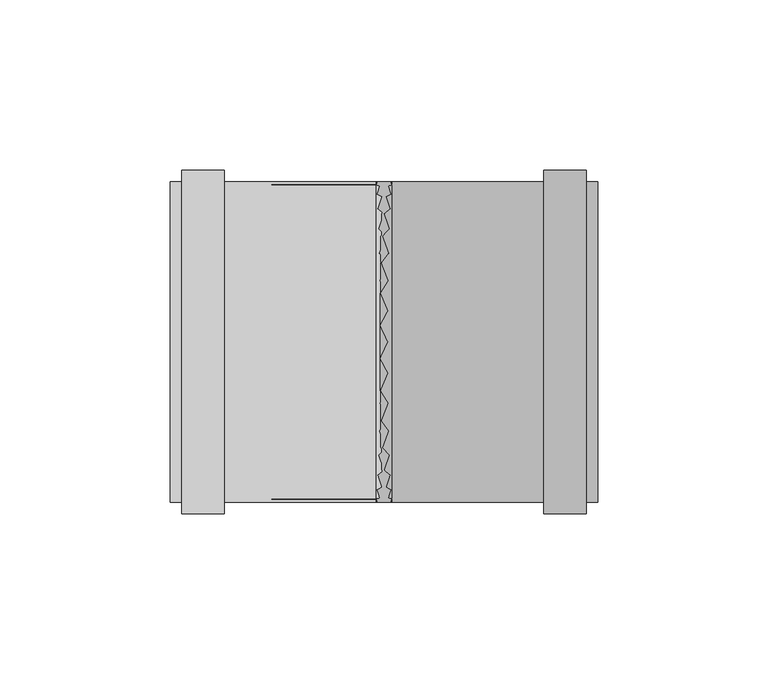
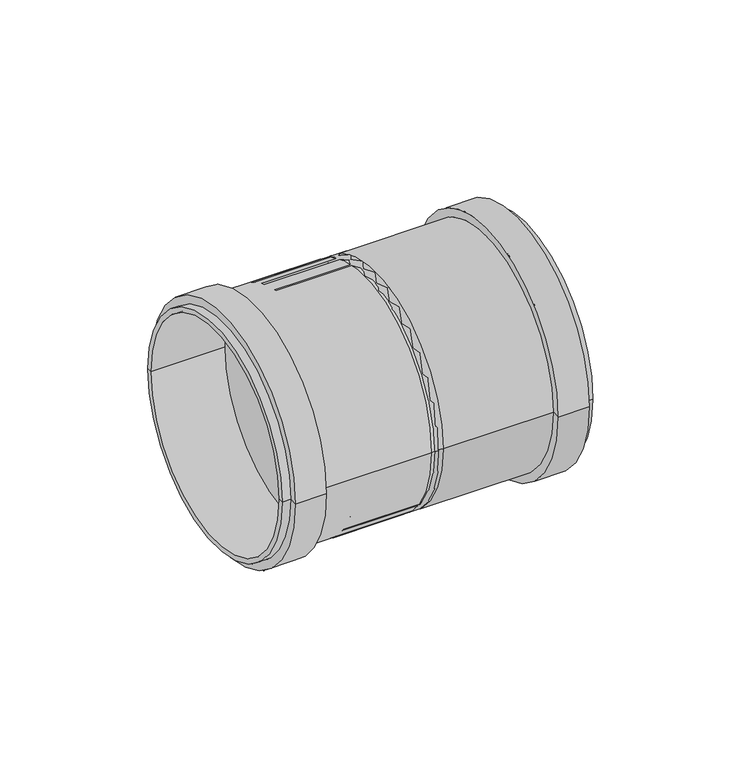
"""IFC4 building model written with IfcOpenShell, lengths in millimetres: pipe fitting geometry, pf_HTU : pf_HTU."""

from ifc_helpers import new_model, si_unit, point, frame, origin, origin_2d, place, context, project, spatial, polyline, circle_curve, trimmed, segment, composite_curve, outline, extrude, source, transform, mapped, element, save
from ifc_brep_helpers import plane_surface, cylinder_surface, revolved_surface, advanced_brep


def pipe_fitting_a8bb613b(model_context):
    return source(origin(), model_context, "Body", "SolidModel", [
        advanced_brep(
        [(6.5, -45.0, 0.0), (6.5, 45.0, 0.0), (16.0, 47.0, 0.0), (16.0, -47.0, 0.0), (6.5, 0.0, 0.0), (76.5, -47.0, 0.0), (76.5, 47.0, 0.0), (76.5, 45.0, 0.0), (76.5, -45.0, 0.0), (73.1, -47.0, 0.0), (73.1, 47.0, 0.0), (73.1, -50.4, 0.0), (73.1, 50.4, 0.0), (60.6, -50.4, 0.0), (60.6, 50.4, 0.0), (60.6, -47.0, 0.0), (60.6, 47.0, 0.0), (16.0, -45.0, 0.0), (16.0, 45.0, 0.0), (16.0, 0.0, 0.0)],
        [
            (0, 1, circle_curve(frame((6.5, 0.0, 0.0), z_axis=(1.0, 0.0, 0.0), x_axis=(0.0, 1.0, 0.0)), 45.0)),
            (1, 2),
            (2, 3, circle_curve(frame((16.0, 0.0, 0.0), z_axis=(-1.0, 0.0, 0.0), x_axis=(0.0, 1.0, 0.0)), 47.0)),
            (3, 0),
            (1, 0, circle_curve(frame((6.5, 0.0, 0.0), z_axis=(1.0, 0.0, 0.0), x_axis=(0.0, 1.0, 0.0)), 45.0)),
            (3, 2, circle_curve(frame((16.0, 0.0, 0.0), z_axis=(-1.0, 0.0, 0.0), x_axis=(0.0, 1.0, 0.0)), 47.0)),
            (4, 1),
            (0, 4),
            (5, 6, circle_curve(frame((76.5, 0.0, 0.0), z_axis=(1.0, 0.0, 0.0), x_axis=(0.0, 1.0, 0.0)), 47.0)),
            (6, 7),
            (7, 8, circle_curve(frame((76.5, 0.0, 0.0), z_axis=(-1.0, 0.0, 0.0), x_axis=(0.0, 1.0, 0.0)), 45.0)),
            (8, 5),
            (6, 5, circle_curve(frame((76.5, 0.0, 0.0), z_axis=(1.0, 0.0, 0.0), x_axis=(0.0, 1.0, 0.0)), 47.0)),
            (8, 7, circle_curve(frame((76.5, 0.0, 0.0), z_axis=(-1.0, 0.0, 0.0), x_axis=(0.0, 1.0, 0.0)), 45.0)),
            (9, 10, circle_curve(frame((73.1, 0.0, 0.0), z_axis=(1.0, 0.0, 0.0), x_axis=(0.0, 1.0, 0.0)), 47.0)),
            (10, 6),
            (5, 9),
            (10, 9, circle_curve(frame((73.1, 0.0, 0.0), z_axis=(1.0, 0.0, 0.0), x_axis=(0.0, 1.0, 0.0)), 47.0)),
            (11, 12, circle_curve(frame((73.1, 0.0, 0.0), z_axis=(1.0, 0.0, 0.0), x_axis=(0.0, 1.0, 0.0)), 50.4)),
            (12, 10),
            (9, 11),
            (12, 11, circle_curve(frame((73.1, 0.0, 0.0), z_axis=(1.0, 0.0, 0.0), x_axis=(0.0, 1.0, 0.0)), 50.4)),
            (13, 14, circle_curve(frame((60.6, 0.0, 0.0), z_axis=(1.0, 0.0, 0.0), x_axis=(0.0, 1.0, 0.0)), 50.4)),
            (14, 12),
            (11, 13),
            (14, 13, circle_curve(frame((60.6, 0.0, 0.0), z_axis=(1.0, 0.0, 0.0), x_axis=(0.0, 1.0, 0.0)), 50.4)),
            (15, 16, circle_curve(frame((60.6, 0.0, 0.0), z_axis=(1.0, 0.0, 0.0), x_axis=(0.0, 1.0, 0.0)), 47.0)),
            (16, 14),
            (13, 15),
            (16, 15, circle_curve(frame((60.6, 0.0, 0.0), z_axis=(1.0, 0.0, 0.0), x_axis=(0.0, 1.0, 0.0)), 47.0)),
            (2, 16),
            (15, 3),
            (17, 18, circle_curve(frame((16.0, 0.0, 0.0), z_axis=(1.0, 0.0, 0.0), x_axis=(0.0, 1.0, 0.0)), 45.0)),
            (18, 19),
            (19, 17),
            (18, 17, circle_curve(frame((16.0, 0.0, 0.0), z_axis=(1.0, 0.0, 0.0), x_axis=(0.0, 1.0, 0.0)), 45.0)),
            (7, 18),
            (17, 8),
        ],
        [
            revolved_surface(polyline([(16.0, 47.0, 0.0), (6.5, 45.0, 0.0)]), (6.5, 0.0, 0.0), (-1.0, 0.0, 0.0)),
            plane_surface(frame((6.5, 0.0, 0.0), z_axis=(-1.0, 0.0, 0.0), x_axis=(0.0, 1.0, 0.0))),
            plane_surface(frame((76.5, 0.0, 0.0), z_axis=(1.0, 0.0, 0.0), x_axis=(0.0, 1.0, 0.0))),
            cylinder_surface(frame((6.5, 0.0, 0.0), z_axis=(-1.0, 0.0, 0.0), x_axis=(0.0, 1.0, 0.0)), 47.0),
            plane_surface(frame((73.1, 0.0, 0.0), z_axis=(1.0, 0.0, 0.0), x_axis=(0.0, 1.0, 0.0))),
            cylinder_surface(frame((6.5, 0.0, 0.0), z_axis=(-1.0, 0.0, 0.0), x_axis=(0.0, 1.0, 0.0)), 50.4),
            plane_surface(frame((60.6, 0.0, 0.0), z_axis=(-1.0, 0.0, 0.0), x_axis=(0.0, 1.0, 0.0))),
            plane_surface(frame((16.0, 0.0, 0.0), z_axis=(1.0, 0.0, 0.0), x_axis=(0.0, 1.0, 0.0))),
            revolved_surface(polyline([(16.0, 45.0, 0.0), (76.5, 45.0, 0.0)]), (6.5, 0.0, 0.0), (-1.0, 0.0, 0.0)),
        ],
        [
            (0, [[1, 2, 3, 4]]),
            (0, [[5, -4, 6, -2]]),
            (1, [[7, -1, 8]]),
            (1, [[-8, -5, -7]]),
            (2, [[9, 10, 11, 12]]),
            (2, [[13, -12, 14, -10]]),
            (3, [[15, 16, -9, 17]]),
            (3, [[18, -17, -13, -16]]),
            (4, [[19, 20, -15, 21]]),
            (4, [[22, -21, -18, -20]]),
            (5, [[23, 24, -19, 25]]),
            (5, [[26, -25, -22, -24]]),
            (6, [[27, 28, -23, 29]]),
            (6, [[30, -29, -26, -28]]),
            (3, [[-3, 31, -27, 32]]),
            (3, [[-6, -32, -30, -31]]),
            (7, [[33, 34, 35]]),
            (7, [[36, -35, -34]]),
            (8, [[-11, 37, -33, 38]]),
            (8, [[-14, -38, -36, -37]]),
        ],
    ),
        advanced_brep(
        [(21.0, 45.0, 0.0), (21.0, -45.0, 0.0), (11.5, -47.0, 0.0), (11.5, 47.0, 0.0), (21.0, 0.0, 0.0), (-49.0, 47.0, 0.0), (-49.0, -47.0, 0.0), (-49.0, -45.0, 0.0), (-49.0, 45.0, 0.0), (-45.6, 47.0, 0.0), (-45.6, -47.0, 0.0), (-45.6, 50.4, 0.0), (-45.6, -50.4, 0.0), (-33.1, 50.4, 0.0), (-33.1, -50.4, 0.0), (-33.1, 47.0, 0.0), (-33.1, -47.0, 0.0), (11.5, 45.0, 0.0), (11.5, -45.0, 0.0), (11.5, 0.0, 0.0)],
        [
            (0, 1, circle_curve(frame((21.0, 0.0, 0.0), z_axis=(-1.0, 0.0, 0.0), x_axis=(0.0, -1.0, 0.0)), 45.0)),
            (1, 2),
            (2, 3, circle_curve(frame((11.5, 0.0, 0.0), z_axis=(1.0, 0.0, 0.0), x_axis=(0.0, -1.0, 0.0)), 47.0)),
            (3, 0),
            (1, 0, circle_curve(frame((21.0, 0.0, 0.0), z_axis=(-1.0, 0.0, 0.0), x_axis=(0.0, -1.0, 0.0)), 45.0)),
            (3, 2, circle_curve(frame((11.5, 0.0, 0.0), z_axis=(1.0, 0.0, 0.0), x_axis=(0.0, -1.0, 0.0)), 47.0)),
            (4, 1),
            (0, 4),
            (5, 6, circle_curve(frame((-49.0, 0.0, 0.0), z_axis=(-1.0, 0.0, 0.0), x_axis=(0.0, -1.0, 0.0)), 47.0)),
            (6, 7),
            (7, 8, circle_curve(frame((-49.0, 0.0, 0.0), z_axis=(1.0, 0.0, 0.0), x_axis=(0.0, -1.0, 0.0)), 45.0)),
            (8, 5),
            (6, 5, circle_curve(frame((-49.0, 0.0, 0.0), z_axis=(-1.0, 0.0, 0.0), x_axis=(0.0, -1.0, 0.0)), 47.0)),
            (8, 7, circle_curve(frame((-49.0, 0.0, 0.0), z_axis=(1.0, 0.0, 0.0), x_axis=(0.0, -1.0, 0.0)), 45.0)),
            (9, 10, circle_curve(frame((-45.6, 0.0, 0.0), z_axis=(-1.0, 0.0, 0.0), x_axis=(0.0, -1.0, 0.0)), 47.0)),
            (10, 6),
            (5, 9),
            (10, 9, circle_curve(frame((-45.6, 0.0, 0.0), z_axis=(-1.0, 0.0, 0.0), x_axis=(0.0, -1.0, 0.0)), 47.0)),
            (11, 12, circle_curve(frame((-45.6, 0.0, 0.0), z_axis=(-1.0, 0.0, 0.0), x_axis=(0.0, -1.0, 0.0)), 50.4)),
            (12, 10),
            (9, 11),
            (12, 11, circle_curve(frame((-45.6, 0.0, 0.0), z_axis=(-1.0, 0.0, 0.0), x_axis=(0.0, -1.0, 0.0)), 50.4)),
            (13, 14, circle_curve(frame((-33.1, 0.0, 0.0), z_axis=(-1.0, 0.0, 0.0), x_axis=(0.0, -1.0, 0.0)), 50.4)),
            (14, 12),
            (11, 13),
            (14, 13, circle_curve(frame((-33.1, 0.0, 0.0), z_axis=(-1.0, 0.0, 0.0), x_axis=(0.0, -1.0, 0.0)), 50.4)),
            (15, 16, circle_curve(frame((-33.1, 0.0, 0.0), z_axis=(-1.0, 0.0, 0.0), x_axis=(0.0, -1.0, 0.0)), 47.0)),
            (16, 14),
            (13, 15),
            (16, 15, circle_curve(frame((-33.1, 0.0, 0.0), z_axis=(-1.0, 0.0, 0.0), x_axis=(0.0, -1.0, 0.0)), 47.0)),
            (2, 16),
            (15, 3),
            (17, 18, circle_curve(frame((11.5, 0.0, 0.0), z_axis=(-1.0, 0.0, 0.0), x_axis=(0.0, -1.0, 0.0)), 45.0)),
            (18, 19),
            (19, 17),
            (18, 17, circle_curve(frame((11.5, 0.0, 0.0), z_axis=(-1.0, 0.0, 0.0), x_axis=(0.0, -1.0, 0.0)), 45.0)),
            (7, 18),
            (17, 8),
        ],
        [
            revolved_surface(polyline([(11.5, -47.0, 0.0), (21.0, -45.0, 0.0)]), (21.0, 0.0, 0.0), (1.0, 0.0, 0.0)),
            plane_surface(frame((21.0, 0.0, 0.0), z_axis=(1.0, 0.0, 0.0), x_axis=(0.0, -1.0, 0.0))),
            plane_surface(frame((-49.0, 0.0, 0.0), z_axis=(-1.0, 0.0, 0.0), x_axis=(0.0, -1.0, 0.0))),
            cylinder_surface(frame((21.0, 0.0, 0.0), z_axis=(1.0, 0.0, 0.0), x_axis=(0.0, -1.0, 0.0)), 47.0),
            plane_surface(frame((-45.6, 0.0, 0.0), z_axis=(-1.0, 0.0, 0.0), x_axis=(0.0, -1.0, 0.0))),
            cylinder_surface(frame((21.0, 0.0, 0.0), z_axis=(1.0, 0.0, 0.0), x_axis=(0.0, -1.0, 0.0)), 50.4),
            plane_surface(frame((-33.1, 0.0, 0.0), z_axis=(1.0, 0.0, 0.0), x_axis=(0.0, -1.0, 0.0))),
            plane_surface(frame((11.5, 0.0, 0.0), z_axis=(-1.0, 0.0, 0.0), x_axis=(0.0, -1.0, 0.0))),
            revolved_surface(polyline([(11.5, -45.0, 0.0), (-49.0, -45.0, 0.0)]), (21.0, 0.0, 0.0), (1.0, 0.0, 0.0)),
        ],
        [
            (0, [[1, 2, 3, 4]]),
            (0, [[5, -4, 6, -2]]),
            (1, [[7, -1, 8]]),
            (1, [[-8, -5, -7]]),
            (2, [[9, 10, 11, 12]]),
            (2, [[13, -12, 14, -10]]),
            (3, [[15, 16, -9, 17]]),
            (3, [[18, -17, -13, -16]]),
            (4, [[19, 20, -15, 21]]),
            (4, [[22, -21, -18, -20]]),
            (5, [[23, 24, -19, 25]]),
            (5, [[26, -25, -22, -24]]),
            (6, [[27, 28, -23, 29]]),
            (6, [[30, -29, -26, -28]]),
            (3, [[-3, 31, -27, 32]]),
            (3, [[-6, -32, -30, -31]]),
            (7, [[33, 34, 35]]),
            (7, [[36, -35, -34]]),
            (8, [[-11, 37, -33, 38]]),
            (8, [[-14, -38, -36, -37]]),
        ],
    ),
        extrude(outline(composite_curve([segment(trimmed(circle_curve(origin_2d(), 47.0), [point((-47.0, 0.0))], [point((47.0, 0.0))], False, "CARTESIAN"), True, "CONTINUOUS"), segment(trimmed(circle_curve(origin_2d(), 47.0), [point((47.0, 0.0))], [point((-47.0, 0.0))], False, "CARTESIAN"), True, "CONTINUOUS")], self_intersect=False)), frame((-19.2389226, 0.0, 0.0), z_axis=(1.0, 0.0, 0.0), x_axis=(0.0, 1.0, 0.0)), (0.0, 0.0, 1.0), 38.4778452),
    ])


if __name__ == "__main__":
    model = new_model("IFC4")
    model_context = context("Model", 3, world=origin())
    ifc_project = project(units=[si_unit("LENGTHUNIT", "METRE", prefix="MILLI")], contexts=[model_context])
    site = spatial("IfcSite", under=ifc_project)
    building = spatial("IfcBuilding", under=site)
    placement = place(None, origin())
    pipe_fitting_shape = pipe_fitting_a8bb613b(model_context)
    element("IfcPipeFitting", 1, ObjectType="pf_HTU : pf_HTU", at=placement, inside=building, context=model_context, shape_type="MappedRepresentation", body=[
        mapped(pipe_fitting_shape, transform((0.0, 0.0, 0.0), x_axis=(1.0, 0.0, 0.0), y_axis=(0.0, 1.0, 0.0), z_axis=(0.0, 0.0, 1.0))),
    ])
    save(model, "model.ifc")
